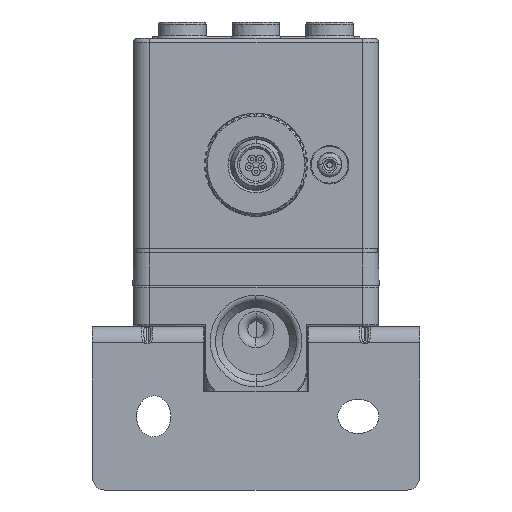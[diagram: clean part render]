
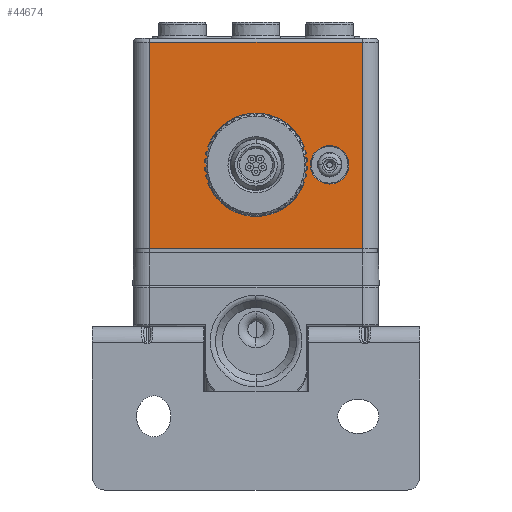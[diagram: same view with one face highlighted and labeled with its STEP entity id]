
A CAD part, front view. The second image highlights one B-rep face of the part: STEP entity #44674.
In plain terms, the highlighted planar face has unit normal (0, -1, 0).
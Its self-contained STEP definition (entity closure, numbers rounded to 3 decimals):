
#11094=DIRECTION('',(1.,0.,0.));
#11095=VECTOR('',#11094,26.);
#11096=CARTESIAN_POINT('',(-13.,-15.,4.5));
#11097=LINE('',#11096,#11095);
#11098=DIRECTION('',(0.,0.,-1.));
#11099=VECTOR('',#11098,25.2);
#11100=CARTESIAN_POINT('',(-13.,-15.,29.7));
#11101=LINE('',#11100,#11099);
#11102=DIRECTION('',(1.,0.,0.));
#11103=VECTOR('',#11102,26.);
#11104=CARTESIAN_POINT('',(-13.,-15.,29.7));
#11105=LINE('',#11104,#11103);
#11106=DIRECTION('',(0.,0.,-1.));
#11107=VECTOR('',#11106,25.2);
#11108=CARTESIAN_POINT('',(13.,-15.,29.7));
#11109=LINE('',#11108,#11107);
#11110=CARTESIAN_POINT('',(0.,-15.,14.75));
#11111=DIRECTION('',(0.,-1.,0.));
#11112=DIRECTION('',(-0.898,0.,-0.44));
#11113=AXIS2_PLACEMENT_3D('',#11110,#11111,#11112);
#11115=DIRECTION('',(-0.017,0.,-1.));
#11116=VECTOR('',#11115,2.35);
#11117=CARTESIAN_POINT('',(5.8,-15.,14.75));
#11118=LINE('',#11117,#11116);
#11119=DIRECTION('',(0.017,0.,-1.));
#11120=VECTOR('',#11119,2.35);
#11121=CARTESIAN_POINT('',(5.759,-15.,17.1));
#11122=LINE('',#11121,#11120);
#11123=CARTESIAN_POINT('',(0.,-15.,14.75));
#11124=DIRECTION('',(0.,-1.,0.));
#11125=DIRECTION('',(0.898,0.,0.44));
#11126=AXIS2_PLACEMENT_3D('',#11123,#11124,#11125);
#11128=DIRECTION('',(0.017,0.,1.));
#11129=VECTOR('',#11128,2.35);
#11130=CARTESIAN_POINT('',(-5.8,-15.,14.75));
#11131=LINE('',#11130,#11129);
#11132=DIRECTION('',(-0.017,0.,1.));
#11133=VECTOR('',#11132,2.35);
#11134=CARTESIAN_POINT('',(-5.759,-15.,12.4));
#11135=LINE('',#11134,#11133);
#11136=CARTESIAN_POINT('',(9.,-15.,14.75));
#11137=DIRECTION('',(0.,1.,0.));
#11138=DIRECTION('',(-1.,0.,0.));
#11139=AXIS2_PLACEMENT_3D('',#11136,#11137,#11138);
#11141=CARTESIAN_POINT('',(9.,-15.,14.75));
#11142=DIRECTION('',(0.,1.,0.));
#11143=DIRECTION('',(1.,0.,0.));
#11144=AXIS2_PLACEMENT_3D('',#11141,#11142,#11143);
#16434=CARTESIAN_POINT('',(-4.759,-15.,17.083));
#16435=DIRECTION('',(0.,1.,0.));
#16436=DIRECTION('',(-1.,0.,0.017));
#16437=AXIS2_PLACEMENT_3D('',#16434,#16435,#16436);
#17211=CARTESIAN_POINT('',(4.759,-15.,17.083));
#17212=DIRECTION('',(0.,1.,0.));
#17213=DIRECTION('',(0.898,0.,0.44));
#17214=AXIS2_PLACEMENT_3D('',#17211,#17212,#17213);
#17266=CARTESIAN_POINT('',(4.759,-15.,12.417));
#17267=DIRECTION('',(0.,1.,0.));
#17268=DIRECTION('',(1.,0.,-0.017));
#17269=AXIS2_PLACEMENT_3D('',#17266,#17267,#17268);
#20514=CARTESIAN_POINT('',(-4.759,-15.,12.417));
#20515=DIRECTION('',(0.,1.,0.));
#20516=DIRECTION('',(-0.898,0.,-0.44));
#20517=AXIS2_PLACEMENT_3D('',#20514,#20515,#20516);
#28226=CARTESIAN_POINT('',(-13.,-15.,4.5));
#28227=CARTESIAN_POINT('',(13.,-15.,4.5));
#28228=VERTEX_POINT('',#28226);
#28229=VERTEX_POINT('',#28227);
#28250=CARTESIAN_POINT('',(13.,-15.,29.7));
#28251=VERTEX_POINT('',#28250);
#28256=CARTESIAN_POINT('',(-13.,-15.,29.7));
#28257=VERTEX_POINT('',#28256);
#28358=CARTESIAN_POINT('',(6.646,-15.,14.75));
#28359=CARTESIAN_POINT('',(11.354,-15.,14.75));
#28360=VERTEX_POINT('',#28358);
#28361=VERTEX_POINT('',#28359);
#28552=CARTESIAN_POINT('',(5.8,-15.,14.75));
#28553=VERTEX_POINT('',#28552);
#28563=CARTESIAN_POINT('',(5.759,-15.,17.1));
#28564=VERTEX_POINT('',#28563);
#28565=CARTESIAN_POINT('',(5.759,-15.,12.4));
#28566=VERTEX_POINT('',#28565);
#28567=CARTESIAN_POINT('',(5.657,-15.,17.523));
#28568=VERTEX_POINT('',#28567);
#28569=CARTESIAN_POINT('',(5.657,-15.,11.977));
#28570=VERTEX_POINT('',#28569);
#28578=CARTESIAN_POINT('',(-5.657,-15.,17.523));
#28579=VERTEX_POINT('',#28578);
#28580=CARTESIAN_POINT('',(-5.657,-15.,11.977));
#28581=VERTEX_POINT('',#28580);
#28592=CARTESIAN_POINT('',(-5.759,-15.,12.4));
#28593=CARTESIAN_POINT('',(-5.8,-15.,14.75));
#28594=VERTEX_POINT('',#28592);
#28595=VERTEX_POINT('',#28593);
#28596=CARTESIAN_POINT('',(-5.759,-15.,17.1));
#28597=VERTEX_POINT('',#28596);
#44633=CARTESIAN_POINT('',(-15.,-15.,2.9));
#44634=DIRECTION('',(0.,-1.,0.));
#44635=DIRECTION('',(1.,0.,0.));
#44636=AXIS2_PLACEMENT_3D('',#44633,#44634,#44635);
#44637=PLANE('',#44636);
#44638=ORIENTED_EDGE('',*,*,#43326,.F.);
#44640=ORIENTED_EDGE('',*,*,#44639,.F.);
#44642=ORIENTED_EDGE('',*,*,#44641,.T.);
#44643=ORIENTED_EDGE('',*,*,#44625,.T.);
#44644=EDGE_LOOP('',(#44638,#44640,#44642,#44643));
#44645=FACE_OUTER_BOUND('',#44644,.F.);
#44647=ORIENTED_EDGE('',*,*,#44646,.T.);
#44649=ORIENTED_EDGE('',*,*,#44648,.F.);
#44651=ORIENTED_EDGE('',*,*,#44650,.F.);
#44653=ORIENTED_EDGE('',*,*,#44652,.F.);
#44655=ORIENTED_EDGE('',*,*,#44654,.F.);
#44657=ORIENTED_EDGE('',*,*,#44656,.T.);
#44659=ORIENTED_EDGE('',*,*,#44658,.F.);
#44661=ORIENTED_EDGE('',*,*,#44660,.F.);
#44663=ORIENTED_EDGE('',*,*,#44662,.F.);
#44665=ORIENTED_EDGE('',*,*,#44664,.F.);
#44666=EDGE_LOOP('',(#44647,#44649,#44651,#44653,#44655,#44657,#44659,#44661,
#44663,#44665));
#44667=FACE_BOUND('',#44666,.F.);
#44669=ORIENTED_EDGE('',*,*,#44668,.F.);
#44671=ORIENTED_EDGE('',*,*,#44670,.F.);
#44672=EDGE_LOOP('',(#44669,#44671));
#44673=FACE_BOUND('',#44672,.F.);
#44674=ADVANCED_FACE('',(#44645,#44667,#44673),#44637,.T.);
#11114=CIRCLE('',#11113,6.3);
#11127=CIRCLE('',#11126,6.3);
#11140=CIRCLE('',#11139,2.354);
#11145=CIRCLE('',#11144,2.354);
#16438=CIRCLE('',#16437,1.);
#17215=CIRCLE('',#17214,1.);
#17270=CIRCLE('',#17269,1.);
#20518=CIRCLE('',#20517,1.);
#43326=EDGE_CURVE('',#28228,#28229,#11097,.T.);
#44625=EDGE_CURVE('',#28251,#28229,#11109,.T.);
#44639=EDGE_CURVE('',#28257,#28228,#11101,.T.);
#44641=EDGE_CURVE('',#28257,#28251,#11105,.T.);
#44646=EDGE_CURVE('',#28581,#28570,#11114,.T.);
#44648=EDGE_CURVE('',#28566,#28570,#17270,.T.);
#44650=EDGE_CURVE('',#28553,#28566,#11118,.T.);
#44652=EDGE_CURVE('',#28564,#28553,#11122,.T.);
#44654=EDGE_CURVE('',#28568,#28564,#17215,.T.);
#44656=EDGE_CURVE('',#28568,#28579,#11127,.T.);
#44658=EDGE_CURVE('',#28597,#28579,#16438,.T.);
#44660=EDGE_CURVE('',#28595,#28597,#11131,.T.);
#44662=EDGE_CURVE('',#28594,#28595,#11135,.T.);
#44664=EDGE_CURVE('',#28581,#28594,#20518,.T.);
#44668=EDGE_CURVE('',#28360,#28361,#11140,.T.);
#44670=EDGE_CURVE('',#28361,#28360,#11145,.T.);
